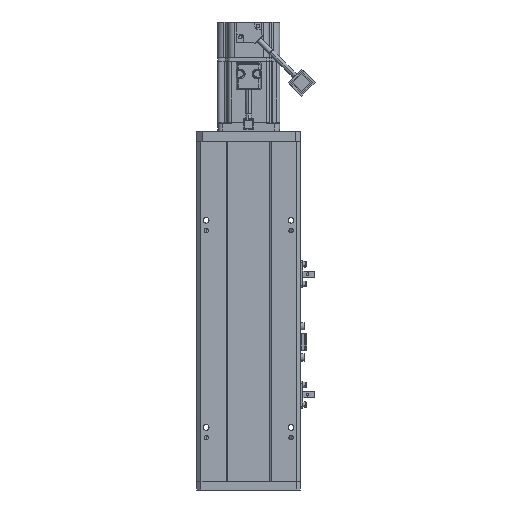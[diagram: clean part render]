
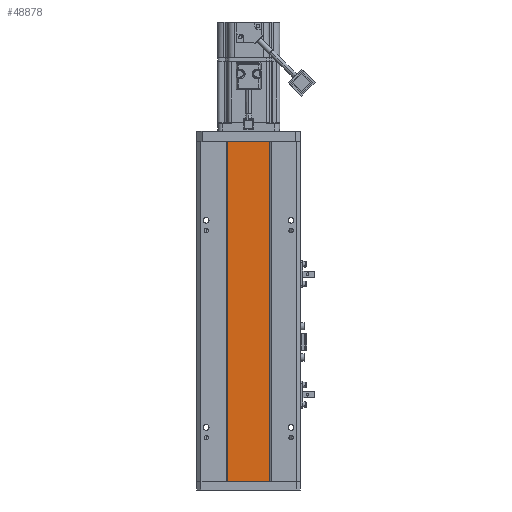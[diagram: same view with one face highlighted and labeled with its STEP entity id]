
A CAD part, front view. The second image highlights one B-rep face of the part: STEP entity #48878.
In plain terms, the highlighted planar face has unit normal (0, -1, 0).
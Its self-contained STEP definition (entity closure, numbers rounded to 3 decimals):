
#3355 = CARTESIAN_POINT ( 'NONE',  ( 20., 0., 0. ) ) ;
#3783 = DIRECTION ( 'NONE',  ( -1., 0., 0. ) ) ;
#7200 = CARTESIAN_POINT ( 'NONE',  ( 20., 0., -328.5 ) ) ;
#8290 = VERTEX_POINT ( 'NONE', #25164 ) ;
#8747 = ORIENTED_EDGE ( 'NONE', *, *, #23061, .F. ) ;
#10413 = DIRECTION ( 'NONE',  ( 0., 0., 1. ) ) ;
#18299 = LINE ( 'NONE', #69983, #18314 ) ;
#18314 = VECTOR ( 'NONE', #3783, 1000. ) ;
#18377 = VECTOR ( 'NONE', #10413, 1000. ) ;
#19522 = LINE ( 'NONE', #76181, #18377 ) ;
#20486 = DIRECTION ( 'NONE',  ( -1., 0., 0. ) ) ;
#21156 = CARTESIAN_POINT ( 'NONE',  ( 20., 0., 0. ) ) ;
#21656 = FACE_OUTER_BOUND ( 'NONE', #45642, .T. ) ;
#22709 = EDGE_CURVE ( 'NONE', #8290, #31837, #24590, .T. ) ;
#22819 = EDGE_CURVE ( 'NONE', #31837, #49086, #23142, .T. ) ;
#23061 = EDGE_CURVE ( 'NONE', #68544, #49086, #19522, .T. ) ;
#23065 = EDGE_CURVE ( 'NONE', #8290, #68544, #18299, .T. ) ;
#23066 = VECTOR ( 'NONE', #27623, 1000. ) ;
#23142 = LINE ( 'NONE', #21156, #23066 ) ;
#24281 = VECTOR ( 'NONE', #33074, 1000. ) ;
#24590 = LINE ( 'NONE', #39680, #24281 ) ;
#25164 = CARTESIAN_POINT ( 'NONE',  ( 20., 0., -328.5 ) ) ;
#26879 = CARTESIAN_POINT ( 'NONE',  ( -20., 0., 0. ) ) ;
#27623 = DIRECTION ( 'NONE',  ( -1., 0., 0. ) ) ;
#31837 = VERTEX_POINT ( 'NONE', #3355 ) ;
#32304 = ORIENTED_EDGE ( 'NONE', *, *, #23065, .F. ) ;
#33074 = DIRECTION ( 'NONE',  ( 0., 0., 1. ) ) ;
#39680 = CARTESIAN_POINT ( 'NONE',  ( 20., 0., -328.5 ) ) ;
#45642 = EDGE_LOOP ( 'NONE', ( #66017, #8747, #32304, #63754 ) ) ;
#45663 = CARTESIAN_POINT ( 'NONE',  ( -20., 0., -328.5 ) ) ;
#48878 = ADVANCED_FACE ( 'NONE', ( #21656 ), #53383, .F. ) ;
#49086 = VERTEX_POINT ( 'NONE', #26879 ) ;
#53383 = PLANE ( 'NONE',  #56411 ) ;
#56411 = AXIS2_PLACEMENT_3D ( 'NONE', #7200, #60267, #20486 ) ;
#60267 = DIRECTION ( 'NONE',  ( 0., 1., 0. ) ) ;
#63754 = ORIENTED_EDGE ( 'NONE', *, *, #22709, .T. ) ;
#66017 = ORIENTED_EDGE ( 'NONE', *, *, #22819, .T. ) ;
#68544 = VERTEX_POINT ( 'NONE', #45663 ) ;
#69983 = CARTESIAN_POINT ( 'NONE',  ( 20., 0., -328.5 ) ) ;
#76181 = CARTESIAN_POINT ( 'NONE',  ( -20., 0., -328.5 ) ) ;
